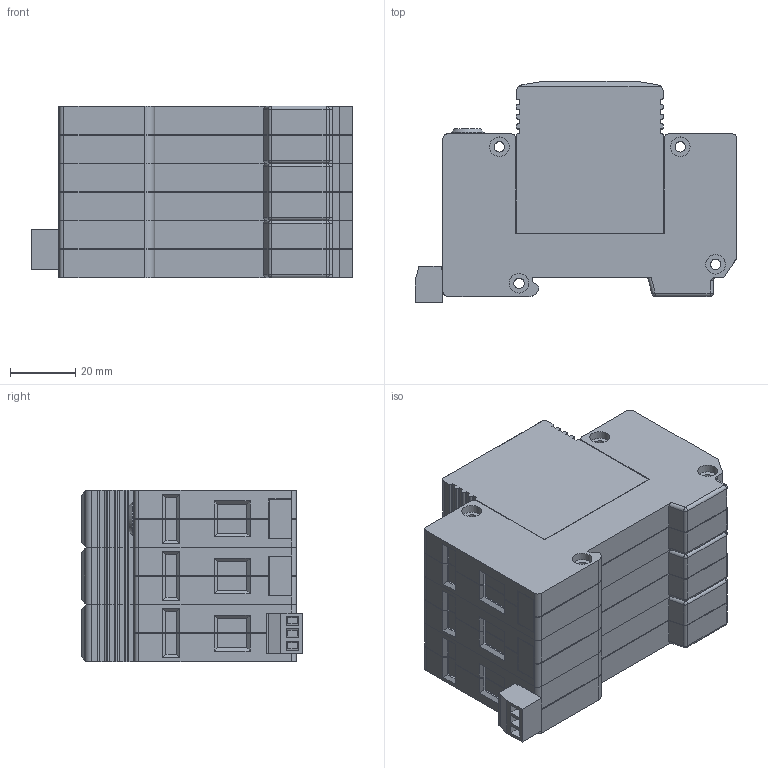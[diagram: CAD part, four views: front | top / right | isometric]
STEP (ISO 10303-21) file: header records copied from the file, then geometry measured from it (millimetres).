
FILE_DESCRIPTION(/* description */ (''),/* implementation_level */ '2;1');
FILE_NAME(/* name */ 'K:\PROJEKTY ROZPRACOVANÉ\MODELY DO KATALOGU\HSA, HLSA 24520, 10007\3D - STEP\HLSA 3+0 M S.stp',/* time_stamp */ '2020-03-17T07:39:38+01:00',/* author */ ('M Koliska'),/* organization */ (''),/* preprocessor_version */ 'ST-DEVELOPER v18',/* originating_system */ 'Autodesk Inventor 2020',/* authorisation */ '');
FILE_SCHEMA (('AUTOMOTIVE_DESIGN { 1 0 10303 214 3 1 1 }'));
Length unit declared in the file: millimetre
Products named in the file (12): HLSA 3+0 M S; HLSA M; HLSA M_1; HLSA M S; HLSA M S_1; KONEKTOR DEGSON 15EDGK 3.81; KONEKTOR SAMEC; ISO 2009 - M1,6 x 2,5; KONEKTOR DEGSON 15EDGRC 3.81 (OBRÁCENÉ VÝV
ODY); HLSA M (Z); HLSA M (Z)_1; DIN 7985 (H) - M5x6-H
Assembly tree (17 placements, depth 4):
  HLSA 3+0 M S
    HLSA M
      HLSA M_1
      DIN 7985 (H) - M5x6-H  x2
    HLSA M S
      HLSA M S_1
      DIN 7985 (H) - M5x6-H  x2
      KONEKTOR DEGSON 15EDGK 3.81
        KONEKTOR SAMEC
        ISO 2009 - M1,6 x 2,5  x3
      KONEKTOR DEGSON 15EDGRC 3.81 (OBRÁCENÉ VÝV
ODY)
    HLSA M (Z)
      HLSA M (Z)_1
      DIN 7985 (H) - M5x6-H
Bounding box: 98.5 x 67.6 x 52.5 mm (x, y, z)
Volume: 252478 mm3; surface area: 63545 mm2
Topology: 13 solids, 13 shells, 1321 faces, 3630 edges, 2402 vertices
Faces by surface type: plane 943, cylinder 246, cone 98, torus 17, sphere 17
Full cylindrical faces by diameter (mm): 0.968 x3, 1 x6, 1.171 x3, 1.6 x3, 1.9 x3, 2 x3, 2.5 x3, 3.2 x12, 4.6 x5, 5 x5, 6 x24, 10 x1
Entity records: 36590 total; most frequent: CARTESIAN_POINT 6464, ORIENTED_EDGE 6272, DIRECTION 6066, EDGE_CURVE 3136, LINE 2490, VECTOR 2490, VERTEX_POINT 2070, AXIS2_PLACEMENT_3D 1788
